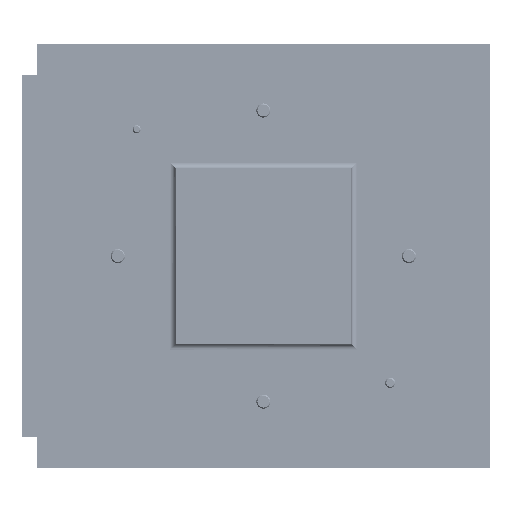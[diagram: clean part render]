
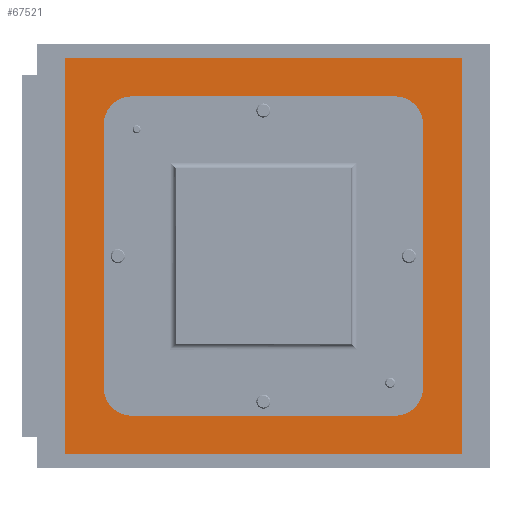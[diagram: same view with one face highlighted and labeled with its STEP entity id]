
A CAD part, front view. The second image highlights one B-rep face of the part: STEP entity #67521.
In plain terms, the highlighted planar face has unit normal (0, -1, 0).
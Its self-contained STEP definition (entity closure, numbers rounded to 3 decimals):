
#298 = EDGE_CURVE ( 'NONE', #8431, #21758, #51585, .T. ) ;
#797 = VERTEX_POINT ( 'NONE', #10041 ) ;
#1045 = LINE ( 'NONE', #22327, #24541 ) ;
#2482 = CARTESIAN_POINT ( 'NONE',  ( -35., -3.6, -35. ) ) ;
#3129 = DIRECTION ( 'NONE',  ( 0., 1., 0. ) ) ;
#3263 = CARTESIAN_POINT ( 'NONE',  ( 35., -3.6, 35. ) ) ;
#3735 = EDGE_CURVE ( 'NONE', #33468, #8431, #28845, .T. ) ;
#3918 = VECTOR ( 'NONE', #38018, 1000. ) ;
#4005 = DIRECTION ( 'NONE',  ( 1., 0., 0. ) ) ;
#4487 = CARTESIAN_POINT ( 'NONE',  ( 23.2, -3.6, 23.2 ) ) ;
#5082 = DIRECTION ( 'NONE',  ( 0., 0., -1. ) ) ;
#5406 = DIRECTION ( 'NONE',  ( 0., 1., 0. ) ) ;
#6107 = AXIS2_PLACEMENT_3D ( 'NONE', #4487, #25433, #57104 ) ;
#6226 = VECTOR ( 'NONE', #61687, 1000. ) ;
#6386 = CARTESIAN_POINT ( 'NONE',  ( 28.2, -3.6, 23.2 ) ) ;
#7287 = ORIENTED_EDGE ( 'NONE', *, *, #45844, .T. ) ;
#7321 = DIRECTION ( 'NONE',  ( 0., 0., 1. ) ) ;
#8431 = VERTEX_POINT ( 'NONE', #2482 ) ;
#8515 = CARTESIAN_POINT ( 'NONE',  ( 35., -3.6, 35. ) ) ;
#8581 = EDGE_CURVE ( 'NONE', #55984, #797, #68272, .T. ) ;
#8746 = CARTESIAN_POINT ( 'NONE',  ( 28.2, -3.6, 28.2 ) ) ;
#9365 = ORIENTED_EDGE ( 'NONE', *, *, #53027, .T. ) ;
#10041 = CARTESIAN_POINT ( 'NONE',  ( -23.2, -3.6, 28.2 ) ) ;
#10819 = EDGE_CURVE ( 'NONE', #46805, #44504, #47021, .T. ) ;
#11249 = VECTOR ( 'NONE', #12797, 1000. ) ;
#12797 = DIRECTION ( 'NONE',  ( 0., 0., -1. ) ) ;
#13603 = VECTOR ( 'NONE', #4005, 1000. ) ;
#16144 = EDGE_LOOP ( 'NONE', ( #41738, #24069, #27381, #43933 ) ) ;
#17833 = VERTEX_POINT ( 'NONE', #26839 ) ;
#18318 = CIRCLE ( 'NONE', #6107, 5. ) ;
#18552 = VERTEX_POINT ( 'NONE', #6386 ) ;
#18567 = VECTOR ( 'NONE', #5082, 1000. ) ;
#19428 = ORIENTED_EDGE ( 'NONE', *, *, #10819, .T. ) ;
#20862 = EDGE_CURVE ( 'NONE', #55984, #18552, #18318, .T. ) ;
#21423 = VERTEX_POINT ( 'NONE', #3263 ) ;
#21758 = VERTEX_POINT ( 'NONE', #51783 ) ;
#22327 = CARTESIAN_POINT ( 'NONE',  ( -35., -3.6, 35. ) ) ;
#22348 = EDGE_CURVE ( 'NONE', #21423, #33468, #1045, .T. ) ;
#23625 = CARTESIAN_POINT ( 'NONE',  ( -23.2, -3.6, -28.2 ) ) ;
#24069 = ORIENTED_EDGE ( 'NONE', *, *, #54086, .T. ) ;
#24541 = VECTOR ( 'NONE', #65484, 1000. ) ;
#25433 = DIRECTION ( 'NONE',  ( 0., 1., 0. ) ) ;
#26839 = CARTESIAN_POINT ( 'NONE',  ( 23.2, -3.6, -28.2 ) ) ;
#27381 = ORIENTED_EDGE ( 'NONE', *, *, #22348, .T. ) ;
#27798 = CARTESIAN_POINT ( 'NONE',  ( -35., -3.6, -35. ) ) ;
#27920 = ORIENTED_EDGE ( 'NONE', *, *, #20862, .T. ) ;
#28845 = LINE ( 'NONE', #27798, #11249 ) ;
#29385 = CIRCLE ( 'NONE', #50495, 5. ) ;
#29597 = EDGE_CURVE ( 'NONE', #46805, #17833, #45838, .T. ) ;
#29602 = DIRECTION ( 'NONE',  ( 0., 1., 0. ) ) ;
#29633 = FACE_OUTER_BOUND ( 'NONE', #16144, .T. ) ;
#30530 = CARTESIAN_POINT ( 'NONE',  ( 28.2, -3.6, -28.2 ) ) ;
#30655 = ORIENTED_EDGE ( 'NONE', *, *, #35559, .F. ) ;
#32729 = VERTEX_POINT ( 'NONE', #45002 ) ;
#32890 = CARTESIAN_POINT ( 'NONE',  ( 23.2, -3.6, -23.2 ) ) ;
#33468 = VERTEX_POINT ( 'NONE', #65041 ) ;
#33852 = PLANE ( 'NONE',  #48328 ) ;
#35027 = LINE ( 'NONE', #8515, #57266 ) ;
#35559 = EDGE_CURVE ( 'NONE', #37201, #18552, #49472, .T. ) ;
#36376 = CARTESIAN_POINT ( 'NONE',  ( -23.2, -3.6, 23.2 ) ) ;
#37201 = VERTEX_POINT ( 'NONE', #48879 ) ;
#37324 = VECTOR ( 'NONE', #57143, 1000. ) ;
#38018 = DIRECTION ( 'NONE',  ( 0., 0., 1. ) ) ;
#39639 = EDGE_CURVE ( 'NONE', #32729, #44504, #62587, .T. ) ;
#39881 = ORIENTED_EDGE ( 'NONE', *, *, #29597, .F. ) ;
#40466 = CARTESIAN_POINT ( 'NONE',  ( 35., -3.6, -35. ) ) ;
#41738 = ORIENTED_EDGE ( 'NONE', *, *, #298, .T. ) ;
#43933 = ORIENTED_EDGE ( 'NONE', *, *, #3735, .T. ) ;
#44251 = CARTESIAN_POINT ( 'NONE',  ( 28.2, -3.6, 28.2 ) ) ;
#44504 = VERTEX_POINT ( 'NONE', #63916 ) ;
#45002 = CARTESIAN_POINT ( 'NONE',  ( -28.2, -3.6, 23.2 ) ) ;
#45838 = LINE ( 'NONE', #30530, #13603 ) ;
#45844 = EDGE_CURVE ( 'NONE', #32729, #797, #46507, .T. ) ;
#46507 = CIRCLE ( 'NONE', #50976, 5. ) ;
#46805 = VERTEX_POINT ( 'NONE', #23625 ) ;
#47021 = CIRCLE ( 'NONE', #51480, 5. ) ;
#48328 = AXIS2_PLACEMENT_3D ( 'NONE', #59939, #3129, #7321 ) ;
#48879 = CARTESIAN_POINT ( 'NONE',  ( 28.2, -3.6, -23.2 ) ) ;
#49056 = CARTESIAN_POINT ( 'NONE',  ( 23.2, -3.6, 28.2 ) ) ;
#49472 = LINE ( 'NONE', #44251, #3918 ) ;
#50495 = AXIS2_PLACEMENT_3D ( 'NONE', #32890, #29602, #66486 ) ;
#50850 = FACE_BOUND ( 'NONE', #65992, .T. ) ;
#50976 = AXIS2_PLACEMENT_3D ( 'NONE', #36376, #57596, #52697 ) ;
#51007 = DIRECTION ( 'NONE',  ( 0., 0., 1. ) ) ;
#51480 = AXIS2_PLACEMENT_3D ( 'NONE', #63235, #5406, #54913 ) ;
#51585 = LINE ( 'NONE', #40466, #6226 ) ;
#51783 = CARTESIAN_POINT ( 'NONE',  ( 35., -3.6, -35. ) ) ;
#52697 = DIRECTION ( 'NONE',  ( 0., 0., 1. ) ) ;
#52802 = CARTESIAN_POINT ( 'NONE',  ( -28.2, -3.6, 28.2 ) ) ;
#53027 = EDGE_CURVE ( 'NONE', #37201, #17833, #29385, .T. ) ;
#54086 = EDGE_CURVE ( 'NONE', #21758, #21423, #35027, .T. ) ;
#54913 = DIRECTION ( 'NONE',  ( 0., 0., 1. ) ) ;
#54948 = ORIENTED_EDGE ( 'NONE', *, *, #39639, .F. ) ;
#55984 = VERTEX_POINT ( 'NONE', #49056 ) ;
#56281 = ORIENTED_EDGE ( 'NONE', *, *, #8581, .F. ) ;
#57104 = DIRECTION ( 'NONE',  ( 0., 0., 1. ) ) ;
#57143 = DIRECTION ( 'NONE',  ( -1., 0., 0. ) ) ;
#57266 = VECTOR ( 'NONE', #51007, 1000. ) ;
#57596 = DIRECTION ( 'NONE',  ( 0., 1., 0. ) ) ;
#59939 = CARTESIAN_POINT ( 'NONE',  ( 0., -3.6, 0. ) ) ;
#61687 = DIRECTION ( 'NONE',  ( 1., 0., 0. ) ) ;
#62587 = LINE ( 'NONE', #52802, #18567 ) ;
#63235 = CARTESIAN_POINT ( 'NONE',  ( -23.2, -3.6, -23.2 ) ) ;
#63916 = CARTESIAN_POINT ( 'NONE',  ( -28.2, -3.6, -23.2 ) ) ;
#65041 = CARTESIAN_POINT ( 'NONE',  ( -35., -3.6, 35. ) ) ;
#65484 = DIRECTION ( 'NONE',  ( -1., 0., 0. ) ) ;
#65992 = EDGE_LOOP ( 'NONE', ( #30655, #9365, #39881, #19428, #54948, #7287, #56281, #27920 ) ) ;
#66486 = DIRECTION ( 'NONE',  ( 0., 0., 1. ) ) ;
#67521 = ADVANCED_FACE ( 'NONE', ( #29633, #50850 ), #33852, .F. ) ;
#68272 = LINE ( 'NONE', #8746, #37324 ) ;
